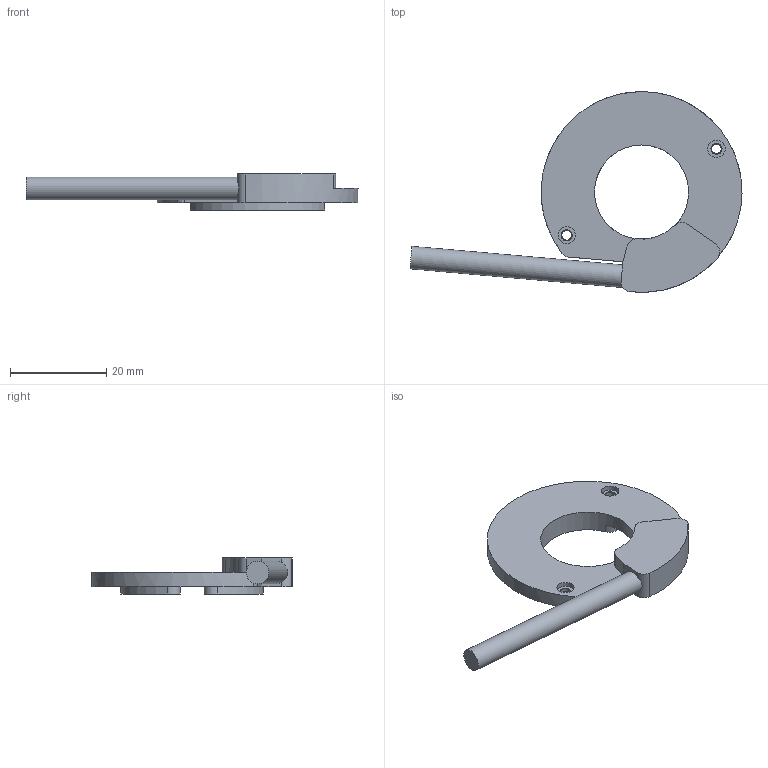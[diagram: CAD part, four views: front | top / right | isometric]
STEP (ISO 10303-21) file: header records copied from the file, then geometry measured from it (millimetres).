
FILE_DESCRIPTION(/* description */ ('Unknown'),/* implementation_level */ '2;1');
FILE_NAME(/* name */ 'DIGITAL HALL MODULE QTR 65 CAD_190129',/* time_stamp */ '2019-01-29T16:25:17+01:00',/* author */ ('Unknown'),/* organization */ ('Unknown'),/* preprocessor_version */ 'ST-DEVELOPER v16.7',/* originating_system */ 'DEX',/* authorisation */ $);
FILE_SCHEMA (('AUTOMOTIVE_DESIGN {1 0 10303 214 3 1 1}'));
Length unit declared in the file: millimetre
Products named in the file (8): 1087811_181015; 1087773_180412_oa_0; Board; N104; 9774010243R_(rev1); N103; Resin QTR DHM 065_180202; QTR DHM CABLE
Assembly tree (8 placements, depth 4):
  1087811_181015
    1087773_180412_oa_0
      Board
      N104
        9774010243R_(rev1)
      N103
        9774010243R_(rev1)
    Resin QTR DHM 065_180202
    QTR DHM CABLE
Bounding box: 69.09 x 41.78 x 7.5 mm (x, y, z)
Volume: 5606.1 mm3; surface area: 5955.1 mm2
Topology: 5 solids, 5 shells, 110 faces, 291 edges, 194 vertices
Faces by surface type: cylinder 75, plane 35
Full cylindrical faces by diameter (mm): 1.567 x2, 2 x2, 2.3 x2, 2.8 x2, 3 x2, 3.6 x2, 4.35 x2, 4.7 x2, 19.6 x1, 20.6 x1
Entity records: 3514 total; most frequent: DIRECTION 637, CARTESIAN_POINT 566, ORIENTED_EDGE 526, EDGE_CURVE 263, AXIS2_PLACEMENT_3D 262, VERTEX_POINT 184, CIRCLE 149, EDGE_LOOP 139
